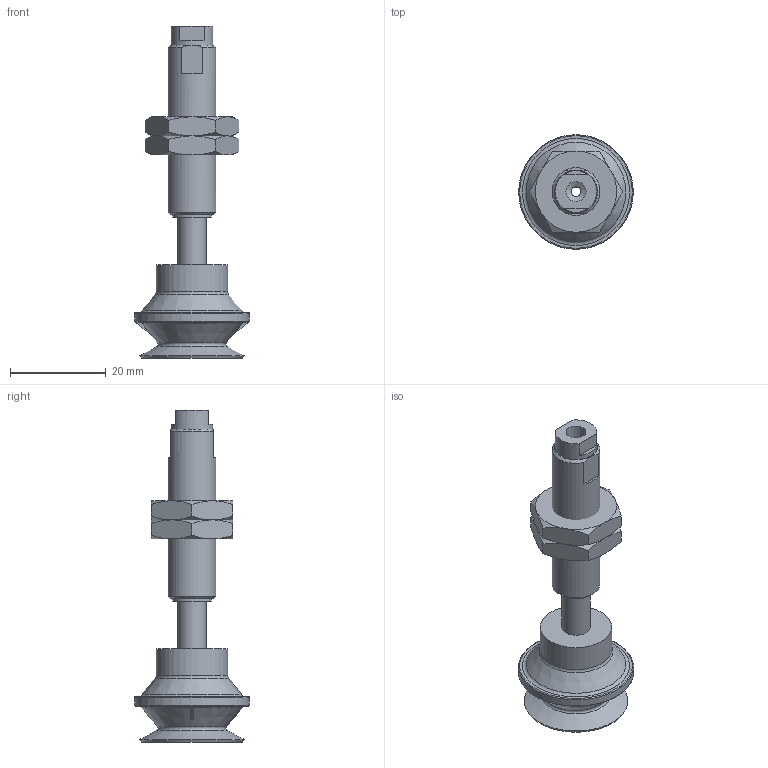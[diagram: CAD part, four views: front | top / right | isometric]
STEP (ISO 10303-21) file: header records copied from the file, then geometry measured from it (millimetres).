
FILE_DESCRIPTION(('STEP AP203'),'1');
FILE_NAME('-LB.stp','2025-04-02T02:41:28',(' '),(' '),'Spatial InterOp 3D',' ',' ');
FILE_SCHEMA(('CONFIG_CONTROL_DESIGN'));
Length unit declared in the file: millimetre
Products named in the file (7): BNABPBTH-20-10-※-LB; __; BODY; NUT; BPBG-20-※; TN-PF-20-M5
Assembly tree (6 placements, depth 2):
  BNABPBTH-20-10-※-LB
    __
    BODY
    NUT
    NUT
    BPBG-20-※
    TN-PF-20-M5
Bounding box: 24 x 24 x 69.5 mm (x, y, z)
Volume: 8030.1 mm3; surface area: 6404.9 mm2
Topology: 6 solids, 6 shells, 123 faces, 265 edges, 159 vertices
Faces by surface type: plane 55, cone 41, cylinder 17, torus 10
Full cylindrical faces by diameter (mm): 2 x1, 2.5 x1, 3 x1, 4.2 x2, 4.6 x1, 5 x1, 6 x1, 8 x1, 8.7 x1, 9 x2, 10 x1, 10.8 x1, 11 x1, 15 x1, 24 x1
Entity records: 3496 total; most frequent: CARTESIAN_POINT 704, DIRECTION 528, ORIENTED_EDGE 434, AXIS2_PLACEMENT_3D 233, EDGE_CURVE 217, EDGE_LOOP 178, VERTEX_POINT 149, FACE_OUTER_BOUND 148
